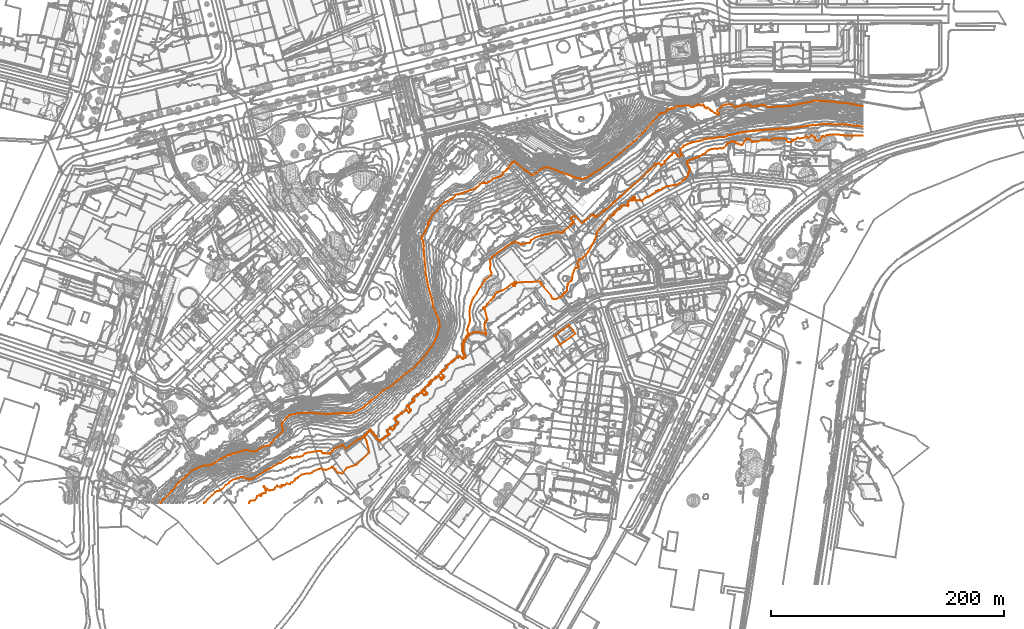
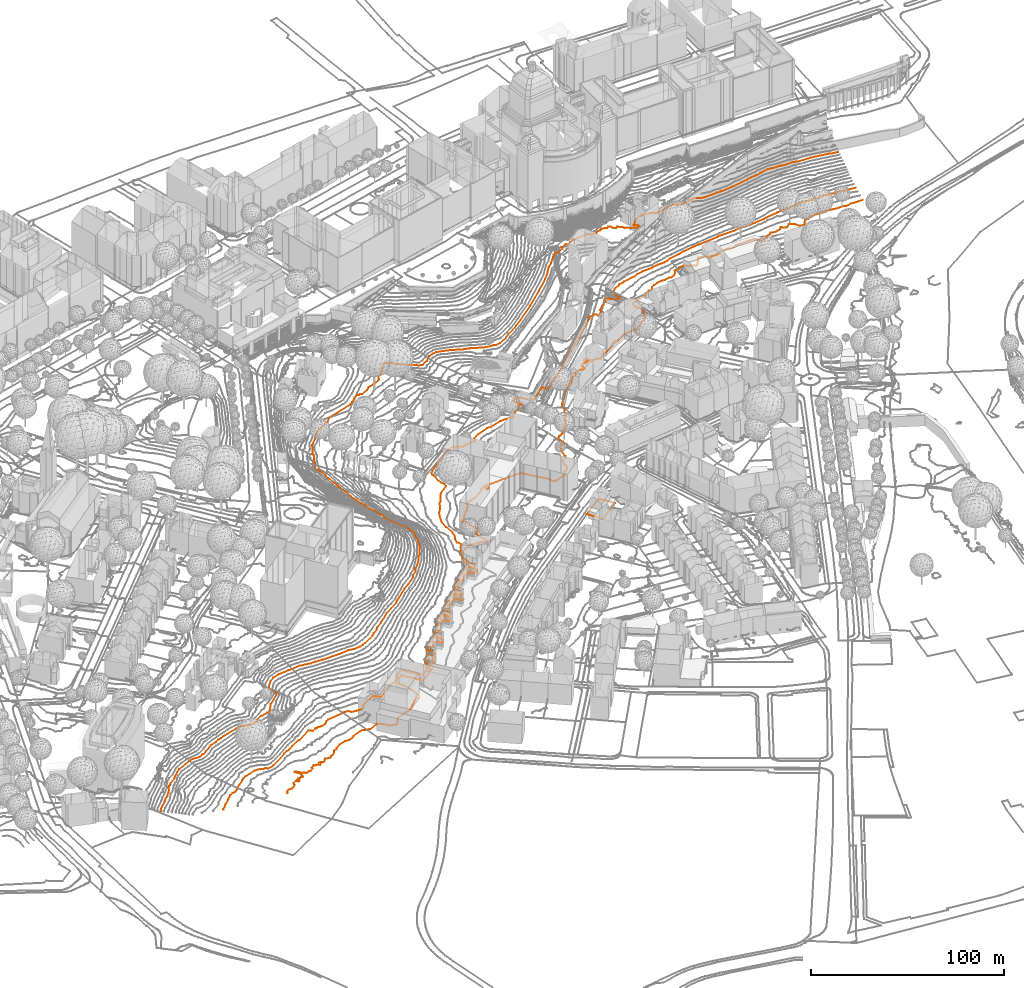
# Not in any storey, part 150 of 477: 4 geographic elements.
"""IFC4 model written with IfcOpenShell, lengths in metres."""

from ifc_helpers import new_model, entity, si_unit, frame, origin_with_axes, place, context, subcontext, project, spatial, element, save


model = new_model("IFC4")

# Units and contexts
model_context = context("Model", 3, precision=1e-05, world=origin_with_axes())
body_context = subcontext(model_context, "Body", "Model", "MODEL_VIEW")
ifc_project = project(units=[si_unit("AREAUNIT", "SQUARE_METRE"), si_unit("LENGTHUNIT", "METRE")], contexts=[model_context])

# Sites
site_1_placement = place(None, origin_with_axes())
site_1 = spatial("IfcSite", under=ifc_project, at=site_1_placement, Name="Topoexport Site")
site_2_placement = place(site_1_placement, origin_with_axes())
site_2 = spatial("IfcSite", under=site_1, at=site_2_placement, Name="TPX_CADASTRES")

# Geographic element
geographic_element_1_placement = place(site_2_placement, frame((423.656732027, 142.4997160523, 502.5184169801), z_axis=(0.0, 0.0, 1.0), x_axis=(1.0, 0.0, 0.0)))
element("IfcGeographicElement", 1, at=geographic_element_1_placement, inside=site_2, Name="Cadastre 197", PredefinedType="NOTDEFINED", context=body_context, shape_type="GeometricCurveSet", body=[
    entity("IfcGeometricCurveSet", [entity("IfcIndexedPolyCurve", entity("IfcCartesianPointList3D", [[0.0, 0.0, 0.0], [12.338, 9.091, 0.0222488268], [17.8079999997, 1.6810000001, -0.3433522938], [4.7799999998, -7.99, 0.0427085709], [0.0, 0.0, 0.0]]))]),
])

# Site
site_3_placement = place(site_1_placement, origin_with_axes())
site_3 = spatial("IfcSite", under=site_1, at=site_3_placement, Name="TPX_CONTOUR_LINES")

# Geographic elements
geographic_element_2_placement = place(site_3_placement, frame((161.465342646, -1.3292839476, 505.0), z_axis=(0.0, 0.0, 1.0), x_axis=(1.0, 0.0, 0.0)))
element("IfcGeographicElement", 2, at=geographic_element_2_placement, inside=site_3, Name="Contour Line 505.0 m", PredefinedType="NOTDEFINED", context=body_context, shape_type="GeometricCurveSet", body=[
    entity("IfcGeometricCurveSet", [entity("IfcIndexedPolyCurve", entity("IfcCartesianPointList3D", [[526.7123893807, 315.2069503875, 0.0], [519.2123893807, 315.2732294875, 0.0], [516.2123893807, 314.8002924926, 0.0], [515.2123893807, 315.3186955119, 0.0], [513.2123893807, 315.1981731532, 0.0], [509.1527119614, 315.5, 0.0], [503.2123893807, 316.3215092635, 0.0], [500.2123893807, 315.9079242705, 0.0], [498.2123893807, 316.0161334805, 0.0], [496.2123893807, 315.4967054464, 0.0], [495.2123893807, 315.6368888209, 0.0], [493.5534447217, 314.5, 0.0], [492.2123893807, 314.6919054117, 0.0], [491.2123893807, 314.2698392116, 0.0], [489.2123893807, 311.1402562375, 0.0], [487.2123893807, 310.9086021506, 0.0], [486.1375825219, 311.5, 0.0], [485.2123893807, 313.3470764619, 0.0], [484.2123893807, 314.3789085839, 0.0], [482.2123893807, 315.5223867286, 0.0], [480.2123893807, 313.5784313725, 0.0], [479.2123893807, 313.6009070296, 0.0], [477.2123893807, 315.0170329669, 0.0], [476.2123893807, 313.7466857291, 0.0], [474.2123893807, 313.0376222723, 0.0], [472.2123893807, 312.7664549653, 0.0], [470.2123893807, 313.3330985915, 0.0], [469.2123893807, 312.3983425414, 0.0], [466.2123893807, 311.5852272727, 0.0], [466.3584070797, 310.5, 0.0], [464.2123893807, 309.4738669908, 0.0], [462.154413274, 309.5, 0.0], [460.9906241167, 311.5, 0.0], [460.2123893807, 312.2418576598, 0.0], [458.2123893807, 312.7620000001, 0.0], [449.0217663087, 312.5, 0.0], [447.2123893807, 311.6006628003, 0.0], [445.2123893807, 311.1224588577, 0.0], [444.2123893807, 311.8990051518, 0.0], [440.2123893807, 311.9309906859, 0.0], [436.2123893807, 310.1443271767, 0.0], [433.2123893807, 310.0880628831, 0.0], [432.2123893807, 309.7835774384, 0.0], [431.2123893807, 309.9989648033, 0.0], [430.2123893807, 311.374105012, 0.0], [429.2123893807, 312.1302050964, 0.0], [426.2123893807, 312.5525580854, 0.0], [423.2123893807, 307.6217135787, 0.0], [422.2123893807, 307.0252818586, 0.0], [419.2123893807, 308.3179022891, 0.0], [417.8236118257, 308.5, 0.0], [417.2123893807, 309.6440947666, 0.0], [416.2123893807, 310.137881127, 0.0], [413.2123893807, 309.8792638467, 0.0], [409.9060830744, 308.5, 0.0], [409.0418861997, 306.5, 0.0], [407.2123893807, 304.7815276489, 0.0], [405.2123893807, 304.1554869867, 0.0], [404.2123893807, 304.6470800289, 0.0], [401.2123893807, 303.8154962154, 0.0], [399.2123893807, 304.0460321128, 0.0], [396.3503037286, 303.5, 0.0], [394.2123893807, 302.666028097, 0.0], [392.4184692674, 301.5, 0.0], [391.2123893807, 299.7420074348, 0.0], [390.2123893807, 299.3481186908, 0.0], [389.2123893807, 299.5282867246, 0.0], [386.2123893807, 297.220676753, 0.0], [383.4192859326, 296.5, 0.0], [381.7379149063, 295.5, 0.0], [377.2123893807, 294.2364155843, 0.0], [376.2123893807, 293.4510747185, 0.0], [375.8052469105, 291.5, 0.0], [376.1965536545, 289.5, 0.0], [377.310175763, 288.5, 0.0], [377.6761243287, 287.5, 0.0], [377.8355025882, 284.5, 0.0], [377.2123893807, 284.1975732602, 0.0], [376.3457008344, 281.5, 0.0], [374.9731823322, 279.5, 0.0], [374.6593243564, 278.5, 0.0], [372.2123893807, 277.0914786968, 0.0], [369.2123893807, 274.3572429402, 0.0], [367.2123893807, 273.1040470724, 0.0], [365.2123893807, 272.5344516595, 0.0], [364.2123893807, 272.6157352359, 0.0], [358.2123893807, 271.8350357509, 0.0], [354.2123893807, 269.7304730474, 0.0], [353.2123893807, 268.7483761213, 0.0], [350.9242821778, 268.5, 0.0], [350.2123893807, 267.6705698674, 0.0], [349.1431841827, 267.5, 0.0], [347.2123893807, 265.7058663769, 0.0], [346.2123893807, 265.2674199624, 0.0], [343.2123893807, 262.8686982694, 0.0], [341.0379707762, 262.5, 0.0], [339.5757880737, 261.5, 0.0], [337.2123893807, 258.9570238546, 0.0], [334.2123893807, 260.0008771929, 0.0], [333.2123893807, 259.629579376, 0.0], [332.2123893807, 259.6752484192, 0.0], [331.4058522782, 260.5, 0.0], [331.1355162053, 262.5, 0.0], [329.2123893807, 262.6550896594, 0.0], [328.1074355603, 261.5, 0.0], [328.2123893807, 260.9212962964, 0.0], [330.4143598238, 261.5, 0.0], [330.579441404, 260.5, 0.0], [330.2123893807, 260.0916398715, 0.0], [329.2123893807, 259.7745398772, 0.0], [326.2123893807, 259.5520139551, 0.0], [324.9243832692, 258.5, 0.0], [325.4393687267, 255.5, 0.0], [325.2123893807, 254.6977186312, 0.0], [323.2123893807, 255.2533227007, 0.0], [321.2123893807, 255.2551474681, 0.0], [319.2123893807, 254.5369047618, 0.0], [318.5069925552, 253.5, 0.0], [318.2123893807, 252.3257655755, 0.0], [316.2123893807, 251.7444073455, 0.0], [314.2123893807, 249.7422988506, 0.0], [313.2123893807, 249.5337504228, 0.0], [313.4070202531, 248.5, 0.0], [312.917886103, 247.5, 0.0], [312.2123893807, 246.9720754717, 0.0], [311.2123893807, 246.8063291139, 0.0], [310.2123893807, 246.0642869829, 0.0], [307.5322657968, 243.5, 0.0], [299.0968937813, 233.5, 0.0], [298.370428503, 231.5, 0.0], [297.8470706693, 228.5, 0.0], [296.1912217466, 225.5, 0.0], [296.0267762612, 224.5, 0.0], [294.0904221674, 221.5, 0.0], [291.2123893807, 215.7127351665, 0.0], [290.2123893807, 214.7580195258, 0.0], [288.8178451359, 212.5, 0.0], [286.8786264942, 211.5, 0.0], [286.2123893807, 210.3762287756, 0.0], [285.2123893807, 209.9692111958, 0.0], [284.2123893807, 209.1053864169, 0.0], [283.2123893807, 208.818955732, 0.0], [282.2123893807, 207.7880886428, 0.0], [281.7245797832, 205.5, 0.0], [282.4621772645, 203.5, 0.0], [282.2123893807, 201.8919744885, 0.0], [281.2123893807, 201.4628140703, 0.0], [280.2123893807, 201.8028865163, 0.0], [279.862936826, 201.5, 0.0], [278.7764534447, 199.5, 0.0], [277.6827863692, 196.5, 0.0], [276.963840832, 191.5, 0.0], [276.2123893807, 190.5732098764, 0.0], [273.3871804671, 188.5, 0.0], [273.4815941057, 187.5, 0.0], [272.7440326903, 185.5, 0.0], [272.9471186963, 184.5, 0.0], [272.7952977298, 182.5, 0.0], [271.2123893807, 180.5507253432, 0.0], [270.2123893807, 180.218394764, 0.0], [269.4856077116, 179.5, 0.0], [268.2123893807, 177.2617420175, 0.0], [263.2123893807, 175.2468276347, 0.0], [261.2123893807, 174.9209147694, 0.0], [260.2123893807, 175.3175769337, 0.0], [259.2123893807, 178.1581769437, 0.0], [252.8794667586, 185.5, 0.0], [251.5496336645, 187.5, 0.0], [250.5046371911, 188.5, 0.0], [250.1659920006, 189.5, 0.0], [249.2123893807, 190.0959406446, 0.0], [230.2123893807, 189.3114297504, 0.0], [229.2123893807, 188.9456733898, 0.0], [228.5151717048, 189.5, 0.0], [227.8438634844, 189.5, 0.0], [226.2536857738, 188.5, 0.0], [227.2123893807, 187.6312174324, 0.0], [228.2123893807, 187.9896872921, 0.0], [228.4026685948, 187.5, 0.0], [228.2123893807, 186.3356661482, 0.0], [227.2123893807, 186.1130669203, 0.0], [226.4191514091, 186.5, 0.0], [227.0533767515, 187.5, 0.0], [226.2123893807, 188.4488341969, 0.0], [224.2123893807, 187.3758584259, 0.0], [223.2123893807, 186.1167444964, 0.0], [221.2123893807, 184.7776504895, 0.0], [217.2123893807, 182.4578286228, 0.0], [215.2123893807, 181.7754325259, 0.0], [214.2123893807, 181.0120652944, 0.0], [213.2123893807, 181.0871298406, 0.0], [212.2207253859, 180.5, 0.0], [211.2572404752, 179.5, 0.0], [210.2123893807, 176.9859887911, 0.0], [209.5194670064, 176.5, 0.0], [208.2123893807, 174.5635144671, 0.0], [207.2123893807, 174.0163343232, 0.0], [204.2123893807, 170.7630614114, 0.0], [203.8769701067, 169.5, 0.0], [202.2123893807, 168.1112759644, 0.0], [201.2123893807, 167.9568113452, 0.0], [200.7783346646, 167.5, 0.0], [201.2123893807, 166.8462484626, 0.0], [202.2123893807, 166.396034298, 0.0], [204.4654103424, 157.5, 0.0], [203.8763158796, 156.5, 0.0], [202.3787236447, 155.5, 0.0], [202.3485012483, 154.5, 0.0], [201.8696519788, 153.5, 0.0], [201.8890360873, 151.5, 0.0], [203.3622534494, 146.5, 0.0], [203.2566602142, 144.5, 0.0], [200.2123893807, 146.1511038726, 0.0], [195.2123893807, 146.8118663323, 0.0], [192.2123893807, 146.310496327, 0.0], [188.2123893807, 143.8219855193, 0.0], [187.4174227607, 142.5, 0.0], [185.5994279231, 140.5, 0.0], [185.1265332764, 139.5, 0.0], [184.3611698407, 137.5, 0.0], [183.8302678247, 134.5, 0.0], [184.045483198, 130.5, 0.0], [185.9002944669, 125.5, 0.0], [185.2123893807, 124.8113529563, 0.0], [184.2123893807, 124.8134669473, 0.0], [183.2123893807, 123.8126350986, 0.0], [181.2123893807, 125.8134698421, 0.0], [180.2123893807, 125.8132479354, 0.0], [179.2123893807, 124.8134262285, 0.0], [178.2123893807, 124.8122099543, 0.0], [175.2123893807, 121.8124491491, 0.0], [174.2123893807, 121.0484771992, 0.0], [173.2123893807, 120.8108804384, 0.0], [169.790661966, 117.5, 0.0], [169.9006238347, 116.5, 0.0], [167.2123893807, 113.8313602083, 0.0], [166.2123893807, 113.7738811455, 0.0], [164.900209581, 112.5, 0.0], [164.9002567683, 111.5, 0.0], [166.8756420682, 109.5, 0.0], [167.0851466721, 108.5, 0.0], [166.9004020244, 107.5, 0.0], [166.2123893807, 106.8110877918, 0.0], [165.2123893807, 105.8788738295, 0.0], [164.5946905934, 106.5, 0.0], [164.4825918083, 107.5, 0.0], [163.2123893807, 108.8134698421, 0.0], [162.2123893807, 108.8125394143, 0.0], [161.2123893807, 107.8134050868, 0.0], [159.2123893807, 106.8114186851, 0.0], [157.2123893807, 104.8129947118, 0.0], [154.9013680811, 103.5, 0.0], [155.899789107, 102.5, 0.0], [154.2123893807, 100.9853716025, 0.0], [153.2123893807, 100.8115074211, 0.0], [150.1019467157, 97.5, 0.0], [152.8993975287, 94.5, 0.0], [152.0412782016, 93.5, 0.0], [151.2123893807, 92.8128265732, 0.0], [150.2123893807, 92.8134698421, 0.0], [148.5258592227, 94.5, 0.0], [148.2123893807, 95.4263551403, 0.0], [147.2123893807, 94.8114891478, 0.0], [145.2123893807, 92.8131740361, 0.0], [143.2123893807, 91.8121168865, 0.0], [140.8994407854, 89.5, 0.0], [141.8989195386, 88.5, 0.0], [141.5106119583, 87.5, 0.0], [140.2123893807, 86.8124763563, 0.0], [137.2123893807, 83.870893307, 0.0], [136.1046721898, 83.5, 0.0], [138.7964873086, 80.5, 0.0], [138.8996730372, 79.5, 0.0], [137.2123893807, 77.8104488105, 0.0], [135.2123893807, 79.8134698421, 0.0], [134.2123893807, 79.8114395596, 0.0], [131.2123893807, 76.8870081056, 0.0], [130.2123893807, 76.8100109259, 0.0], [127.2123893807, 73.8615881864, 0.0], [126.2123893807, 73.8099954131, 0.0], [125.9013732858, 73.5, 0.0], [125.9544975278, 71.5, 0.0], [127.8989195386, 69.5, 0.0], [127.8993134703, 68.5, 0.0], [125.2123893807, 66.0239048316, 0.0], [124.8989195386, 65.5, 0.0], [124.8998413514, 64.5, 0.0], [123.2123893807, 62.8110615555, 0.0], [121.2123893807, 64.5516686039, 0.0], [118.8989578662, 62.5, 0.0], [118.903285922, 61.5, 0.0], [120.8194236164, 59.5, 0.0], [120.2123893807, 58.8920461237, 0.0], [119.2123893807, 58.6607775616, 0.0], [116.2123893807, 55.9600415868, 0.0], [114.2123893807, 54.7850354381, 0.0], [112.2123893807, 53.0588619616, 0.0], [109.5486930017, 55.5, 0.0], [108.4843465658, 57.5, 0.0], [105.5533676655, 60.5, 0.0], [105.2132915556, 61.5, 0.0], [104.2123893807, 62.7713916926, 0.0], [101.7975701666, 60.5, 0.0], [100.2031376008, 58.5, 0.0], [99.9035502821, 57.5, 0.0], [99.197941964, 56.5, 0.0], [100.6372626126, 54.5, 0.0], [100.951576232, 53.5, 0.0], [102.6464386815, 46.5, 0.0], [103.00090113, 44.5, 0.0], [102.7435037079, 43.5, 0.0], [92.9767424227, 33.5, 0.0], [84.2123893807, 30.5045158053, 0.0], [83.2123893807, 29.5841610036, 0.0], [80.2123893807, 25.36137412, 0.0], [76.2123893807, 26.4776644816, 0.0], [74.2123893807, 28.9956964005, 0.0], [72.2123893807, 30.5515384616, 0.0], [71.2123893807, 30.9071875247, 0.0], [66.2123893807, 28.6352002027, 0.0], [63.2123893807, 29.121464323, 0.0], [62.2123893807, 29.840236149, 0.0], [60.2123893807, 29.5211193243, 0.0], [55.5029143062, 27.5, 0.0], [54.2123893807, 26.4791484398, 0.0], [52.2123893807, 25.5056657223, 0.0], [49.2123893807, 25.6354309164, 0.0], [45.2123893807, 24.4431524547, 0.0], [42.3485131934, 22.5, 0.0], [41.7213499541, 21.5, 0.0], [40.2123893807, 21.1535704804, 0.0], [39.6023794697, 20.5, 0.0], [39.2123893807, 19.4344678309, 0.0], [37.2123893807, 17.8106493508, 0.0], [36.2123893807, 17.6135009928, 0.0], [35.2123893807, 16.4391699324, 0.0], [32.2123893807, 17.0376458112, 0.0], [31.2123893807, 15.7464214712, 0.0], [30.2123893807, 15.019339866, 0.0], [29.2123893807, 15.5137367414, 0.0], [28.2123893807, 15.5890449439, 0.0], [27.9782682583, 15.5, 0.0], [28.4845743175, 14.5, 0.0], [27.2123893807, 13.4437945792, 0.0], [26.2123893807, 14.4543826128, 0.0], [24.5571273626, 14.5, 0.0], [24.2123893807, 15.0747292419, 0.0], [22.3297109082, 13.5, 0.0], [22.2123893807, 12.3485010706, 0.0], [20.2123893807, 11.3565279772, 0.0], [19.2123893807, 11.4255079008, 0.0], [18.2123893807, 10.95, 0.0], [17.2123893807, 11.0484346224, 0.0], [16.9332454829, 11.5, 0.0], [15.1626200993, 12.5, 0.0], [13.2123893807, 14.9069058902, 0.0], [12.4980470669, 14.5, 0.0], [13.9022893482, 12.5, 0.0], [14.5702667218, 10.5, 0.0], [14.2123893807, 8.7028665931, 0.0], [13.2123893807, 8.8016246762, 0.0], [12.2123893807, 8.2330650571, 0.0], [11.2123893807, 8.3295857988, 0.0], [10.2123893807, 7.6944012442, 0.0], [9.9783069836, 7.5, 0.0], [10.8380121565, 6.5, 0.0], [10.2123893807, 6.0985384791, 0.0], [9.2123893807, 7.306710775, 0.0], [7.2123893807, 6.0341726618, 0.0], [6.6869601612, 4.5, 0.0], [5.2123893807, 2.913782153, 0.0], [4.2123893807, 2.3664368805, 0.0], [2.2123893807, 2.4394847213, 0.0], [1.2123893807, 1.8110580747, 0.0], [0.0, 0.5, 0.0], [0.0, 0.0, 0.0]]))]),
])
geographic_element_3_placement = place(site_3_placement, frame((123.0830321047, -1.3292839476, 508.0), z_axis=(0.0, 0.0, 1.0), x_axis=(1.0, 0.0, 0.0)))
element("IfcGeographicElement", 3, at=geographic_element_3_placement, inside=site_3, Name="Contour Line 508.0 m", PredefinedType="NOTDEFINED", context=body_context, shape_type="GeometricCurveSet", body=[
    entity("IfcGeometricCurveSet", [entity("IfcIndexedPolyCurve", entity("IfcCartesianPointList3D", [[565.094699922, 322.8219168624, 0.0], [559.594699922, 323.6181948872, 0.0], [558.594699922, 323.262633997, 0.0], [556.594699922, 323.9604906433, 0.0], [553.594699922, 324.1119500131, 0.0], [547.594699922, 324.9692113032, 0.0], [540.594699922, 324.6238906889, 0.0], [536.594699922, 325.1486821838, 0.0], [530.594699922, 325.1248238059, 0.0], [525.594699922, 324.3030877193, 0.0], [524.594699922, 324.4619597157, 0.0], [518.594699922, 323.7918099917, 0.0], [511.594699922, 322.7260215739, 0.0], [509.594699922, 322.1755993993, 0.0], [503.594699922, 321.6185926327, 0.0], [500.594699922, 321.0563391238, 0.0], [497.594699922, 321.1122012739, 0.0], [495.594699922, 321.5078168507, 0.0], [490.594699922, 320.6558496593, 0.0], [481.594699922, 320.4851252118, 0.0], [480.594699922, 320.1072655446, 0.0], [465.594699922, 318.7051398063, 0.0], [458.594699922, 317.6649257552, 0.0], [455.594699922, 316.6914447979, 0.0], [449.31749172, 315.5, 0.0], [447.594699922, 314.5111120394, 0.0], [445.594699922, 314.0297193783, 0.0], [441.594699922, 313.902158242, 0.0], [438.594699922, 313.390372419, 0.0], [437.594699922, 312.9571922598, 0.0], [431.594699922, 312.594369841, 0.0], [427.594699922, 311.7396567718, 0.0], [425.594699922, 310.76706973, 0.0], [418.594699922, 309.525554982, 0.0], [417.594699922, 308.9518788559, 0.0], [415.4307428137, 308.5, 0.0], [414.594699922, 307.8440086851, 0.0], [411.2586822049, 306.5, 0.0], [410.594699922, 305.5969331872, 0.0], [408.594699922, 303.9797804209, 0.0], [408.4163447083, 303.5, 0.0], [408.6100907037, 300.5, 0.0], [409.7174833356, 298.5, 0.0], [409.594699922, 298.0633910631, 0.0], [408.594699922, 298.0177514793, 0.0], [407.594699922, 297.3321268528, 0.0], [406.594699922, 297.2539881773, 0.0], [405.594699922, 298.5953292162, 0.0], [402.594699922, 300.8958926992, 0.0], [401.7445205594, 300.5, 0.0], [401.1467637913, 298.5, 0.0], [399.594699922, 297.7086740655, 0.0], [398.594699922, 296.3811401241, 0.0], [397.594699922, 296.0174873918, 0.0], [394.9483179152, 293.5, 0.0], [395.0608064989, 292.5, 0.0], [394.594699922, 291.7633535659, 0.0], [391.594699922, 289.4243190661, 0.0], [391.3668814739, 289.5, 0.0], [391.2423981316, 290.5, 0.0], [389.594699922, 291.5964270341, 0.0], [388.594699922, 290.8487709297, 0.0], [386.594699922, 290.6573941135, 0.0], [386.3558308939, 289.5, 0.0], [382.594699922, 286.4723688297, 0.0], [382.0579849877, 285.5, 0.0], [380.594699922, 284.5473120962, 0.0], [372.594699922, 276.8610392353, 0.0], [368.594699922, 273.6570935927, 0.0], [362.594699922, 267.9641017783, 0.0], [356.594699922, 263.0251222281, 0.0], [352.594699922, 259.050693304, 0.0], [351.594699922, 258.5318017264, 0.0], [350.594699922, 257.2950969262, 0.0], [344.594699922, 252.0730780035, 0.0], [343.594699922, 251.6958996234, 0.0], [342.594699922, 250.3435173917, 0.0], [341.594699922, 250.000910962, 0.0], [337.594699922, 246.4422712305, 0.0], [336.594699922, 246.1651287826, 0.0], [335.594699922, 245.2896713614, 0.0], [334.8816734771, 245.5, 0.0], [334.3255568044, 247.5, 0.0], [333.594699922, 247.6032185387, 0.0], [332.594699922, 246.6500236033, 0.0], [331.5507113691, 246.5, 0.0], [327.594699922, 242.8799585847, 0.0], [326.594699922, 242.553410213, 0.0], [325.594699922, 241.0152121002, 0.0], [323.594699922, 240.7939322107, 0.0], [318.594699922, 245.6619560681, 0.0], [317.594699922, 246.3652160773, 0.0], [316.594699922, 246.2668241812, 0.0], [314.7534300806, 244.5, 0.0], [315.6544791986, 242.5, 0.0], [315.7544992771, 241.5, 0.0], [317.2274112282, 240.5, 0.0], [316.594699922, 239.8427594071, 0.0], [314.616313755, 239.5, 0.0], [314.5383319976, 238.5, 0.0], [309.594699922, 234.5589029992, 0.0], [308.5264242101, 233.5, 0.0], [307.594699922, 231.9986728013, 0.0], [306.594699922, 231.8166123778, 0.0], [305.594699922, 232.15503419, 0.0], [302.594699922, 232.4175996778, 0.0], [299.594699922, 232.1976171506, 0.0], [293.594699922, 230.3957960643, 0.0], [290.594699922, 230.1091698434, 0.0], [283.594699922, 227.6838070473, 0.0], [280.323039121, 225.5, 0.0], [279.6816769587, 224.5, 0.0], [279.594699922, 223.3338268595, 0.0], [276.594699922, 223.077982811, 0.0], [274.594699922, 222.4603752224, 0.0], [273.594699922, 222.7358147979, 0.0], [272.594699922, 221.8381144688, 0.0], [271.594699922, 221.8771367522, 0.0], [269.594699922, 223.2175688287, 0.0], [267.594699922, 223.4793713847, 0.0], [266.594699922, 224.2024776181, 0.0], [263.594699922, 223.2360667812, 0.0], [258.594699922, 219.878611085, 0.0], [257.1937500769, 218.5, 0.0], [252.594699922, 215.5729587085, 0.0], [251.5804451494, 214.5, 0.0], [247.4600866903, 211.5, 0.0], [245.5631332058, 209.5, 0.0], [244.9685162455, 207.5, 0.0], [245.5446710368, 205.5, 0.0], [245.1823107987, 201.5, 0.0], [245.4837317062, 199.5, 0.0], [246.3203760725, 197.5, 0.0], [246.0751264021, 195.5, 0.0], [240.594699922, 191.2501246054, 0.0], [236.594699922, 184.8210762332, 0.0], [235.594699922, 183.8174044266, 0.0], [233.3961826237, 179.5, 0.0], [231.112772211, 176.5, 0.0], [230.0598209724, 174.5, 0.0], [228.0073590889, 168.5, 0.0], [227.623936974, 163.5, 0.0], [227.9990052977, 157.5, 0.0], [227.6703621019, 154.5, 0.0], [226.3074769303, 151.5, 0.0], [225.6145208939, 148.5, 0.0], [226.9173553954, 145.5, 0.0], [225.7152012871, 144.5, 0.0], [224.9230426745, 143.5, 0.0], [224.7294572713, 142.5, 0.0], [222.8972633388, 140.5, 0.0], [222.0185862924, 138.5, 0.0], [221.2326557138, 134.5, 0.0], [221.6600096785, 130.5, 0.0], [222.3400831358, 128.5, 0.0], [223.8672558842, 125.5, 0.0], [223.594699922, 125.2271500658, 0.0], [222.594699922, 125.2279876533, 0.0], [221.594699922, 124.2276580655, 0.0], [219.594699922, 126.2279888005, 0.0], [218.594699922, 126.2274734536, 0.0], [217.594699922, 125.227887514, 0.0], [216.594699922, 125.2250628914, 0.0], [213.594699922, 122.2268615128, 0.0], [211.594699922, 121.222673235, 0.0], [207.6152984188, 117.5, 0.0], [207.8700693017, 116.5, 0.0], [205.594699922, 114.2695366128, 0.0], [204.594699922, 114.2065210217, 0.0], [202.869707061, 112.5, 0.0], [202.8698166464, 111.5, 0.0], [204.8126525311, 109.5, 0.0], [204.8672984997, 107.5, 0.0], [204.594699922, 107.2270450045, 0.0], [203.594699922, 106.3872174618, 0.0], [203.3055456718, 107.5, 0.0], [201.594699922, 109.2279888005, 0.0], [200.594699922, 109.225828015, 0.0], [199.594699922, 108.2278384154, 0.0], [198.594699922, 108.0526057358, 0.0], [195.594699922, 105.2268853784, 0.0], [194.594699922, 104.9743466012, 0.0], [193.594699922, 104.2211980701, 0.0], [192.8723975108, 103.5, 0.0], [193.8670556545, 102.5, 0.0], [191.594699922, 101.2234313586, 0.0], [187.9480848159, 97.5, 0.0], [190.8669005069, 94.5, 0.0], [189.9231152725, 93.5, 0.0], [189.594699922, 93.2277339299, 0.0], [188.594699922, 93.2279888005, 0.0], [187.3226887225, 94.5, 0.0], [187.1835643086, 95.5, 0.0], [186.594699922, 96.0832439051, 0.0], [183.594699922, 93.2273018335, 0.0], [182.594699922, 93.0521943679, 0.0], [181.594699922, 92.2248467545, 0.0], [178.8679216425, 89.5, 0.0], [179.8667111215, 88.5, 0.0], [179.594699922, 88.0093329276, 0.0], [175.594699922, 84.3613465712, 0.0], [174.594699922, 84.1430259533, 0.0], [173.9516424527, 83.5, 0.0], [176.6288269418, 80.5, 0.0], [176.8670096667, 79.5, 0.0], [175.594699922, 78.2267918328, 0.0], [173.594699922, 80.2279888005, 0.0], [172.594699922, 80.2232737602, 0.0], [169.594699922, 77.3987708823, 0.0], [168.594699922, 77.2199559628, 0.0], [165.594699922, 74.3397367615, 0.0], [164.594699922, 74.2199199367, 0.0], [163.8724095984, 73.5, 0.0], [163.6992202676, 72.5, 0.0], [163.8916491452, 71.5, 0.0], [165.8667111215, 69.5, 0.0], [165.8668672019, 68.5, 0.0], [164.594699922, 67.2276022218, 0.0], [163.2748580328, 66.5, 0.0], [162.8667111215, 65.5, 0.0], [162.8670763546, 64.5, 0.0], [161.594699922, 63.2270346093, 0.0], [159.594699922, 65.1201331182, 0.0], [156.8668001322, 62.5, 0.0], [156.8768514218, 61.5, 0.0], [158.594699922, 59.418293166, 0.0], [157.594699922, 59.1513899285, 0.0], [155.594699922, 57.1924014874, 0.0], [150.594699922, 53.7945370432, 0.0], [149.2307237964, 54.5, 0.0], [147.2312496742, 57.5, 0.0], [145.2291996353, 59.5, 0.0], [144.4191840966, 60.5, 0.0], [144.0938458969, 61.5, 0.0], [142.594699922, 63.1344438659, 0.0], [139.594699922, 60.7444134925, 0.0], [137.594699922, 58.1599952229, 0.0], [135.594699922, 56.2425953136, 0.0], [133.594699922, 55.0245601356, 0.0], [131.5246797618, 54.5, 0.0], [121.594699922, 46.9736096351, 0.0], [119.594699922, 49.1279336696, 0.0], [118.594699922, 49.7650474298, 0.0], [117.594699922, 49.6806114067, 0.0], [113.0688564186, 47.5, 0.0], [111.6433141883, 46.5, 0.0], [109.594699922, 44.901021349, 0.0], [108.594699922, 43.161810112, 0.0], [107.594699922, 42.5611926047, 0.0], [104.594699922, 42.6208076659, 0.0], [103.594699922, 42.9496443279, 0.0], [102.594699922, 42.7918, 0.0], [101.594699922, 43.1298062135, 0.0], [100.594699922, 44.608654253, 0.0], [98.594699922, 44.9457814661, 0.0], [87.594699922, 43.157975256, 0.0], [86.2089033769, 42.5, 0.0], [84.3857813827, 40.5, 0.0], [81.594699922, 39.7549097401, 0.0], [79.594699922, 39.9119218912, 0.0], [78.594699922, 39.32351577, 0.0], [77.594699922, 39.4413929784, 0.0], [75.594699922, 38.3639308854, 0.0], [74.594699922, 39.3182559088, 0.0], [73.594699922, 39.6492452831, 0.0], [65.594699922, 34.573492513, 0.0], [64.594699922, 34.6542868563, 0.0], [59.594699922, 31.9059534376, 0.0], [56.594699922, 29.7730144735, 0.0], [54.594699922, 29.1343400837, 0.0], [52.594699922, 28.0408279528, 0.0], [42.594699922, 21.5227017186, 0.0], [38.594699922, 20.4288629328, 0.0], [37.594699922, 21.3495148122, 0.0], [35.594699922, 21.4064926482, 0.0], [34.594699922, 22.0642919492, 0.0], [33.594699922, 22.3078370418, 0.0], [31.594699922, 22.3438804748, 0.0], [24.594699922, 20.1505787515, 0.0], [22.594699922, 18.9223649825, 0.0], [21.594699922, 17.8416190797, 0.0], [18.5389007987, 15.5, 0.0], [14.594699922, 11.5966675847, 0.0], [13.594699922, 10.94569976, 0.0], [12.594699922, 10.5409465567, 0.0], [11.594699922, 10.5210466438, 0.0], [9.4913033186, 9.5, 0.0], [6.594699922, 6.4364754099, 0.0], [3.1859939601, 3.5, 0.0], [1.594699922, 1.4753174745, 0.0], [0.0, 0.5, 0.0], [0.0, 0.0, 0.0]]))]),
])
geographic_element_4_placement = place(site_3_placement, frame((85.6269270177, -1.3292839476, 520.0), z_axis=(0.0, 0.0, 1.0), x_axis=(1.0, 0.0, 0.0)))
element("IfcGeographicElement", 4, at=geographic_element_4_placement, inside=site_3, Name="Contour Line 520.0 m", PredefinedType="NOTDEFINED", context=body_context, shape_type="GeometricCurveSet", body=[
    entity("IfcGeometricCurveSet", [entity("IfcIndexedPolyCurve", entity("IfcCartesianPointList3D", [[602.550805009, 340.5583623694, 0.0], [598.050805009, 341.0706321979, 0.0], [597.050805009, 341.5818601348, 0.0], [587.050805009, 343.2206096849, 0.0], [580.050805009, 343.4779221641, 0.0], [577.050805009, 344.256076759, 0.0], [572.050805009, 344.2844554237, 0.0], [570.050805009, 344.6878986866, 0.0], [565.050805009, 344.8769393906, 0.0], [563.050805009, 345.4062170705, 0.0], [558.050805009, 344.3898349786, 0.0], [555.050805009, 343.4287759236, 0.0], [552.050805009, 343.3075423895, 0.0], [539.050805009, 340.7494233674, 0.0], [532.050805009, 339.9783752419, 0.0], [529.050805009, 340.1113832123, 0.0], [522.050805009, 339.6462587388, 0.0], [520.050805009, 339.9220403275, 0.0], [517.3977926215, 341.5, 0.0], [516.050805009, 341.6708171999, 0.0], [514.050805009, 340.956942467, 0.0], [513.050805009, 341.0666220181, 0.0], [512.050805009, 340.4094115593, 0.0], [511.050805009, 340.7700053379, 0.0], [510.050805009, 340.186578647, 0.0], [507.050805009, 340.2618072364, 0.0], [505.495498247, 340.5, 0.0], [505.4586880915, 341.5, 0.0], [505.050805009, 341.9413033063, 0.0], [504.050805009, 342.1060707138, 0.0], [501.050805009, 341.5808141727, 0.0], [500.050805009, 341.0777296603, 0.0], [499.050805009, 341.1782493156, 0.0], [497.050805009, 340.7929951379, 0.0], [495.050805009, 340.0206918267, 0.0], [494.050805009, 340.2764237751, 0.0], [493.050805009, 339.687820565, 0.0], [489.050805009, 341.7730369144, 0.0], [487.050805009, 342.2160125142, 0.0], [485.050805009, 341.9027917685, 0.0], [482.050805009, 340.9191759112, 0.0], [481.050805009, 340.2687833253, 0.0], [477.339751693, 336.5, 0.0], [479.050805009, 334.6538526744, 0.0], [479.050805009, 333.9814285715, 0.0], [478.319785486, 333.5, 0.0], [477.050805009, 333.2964015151, 0.0], [476.050805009, 334.5146341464, 0.0], [475.050805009, 334.4634655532, 0.0], [473.050805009, 336.0606276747, 0.0], [471.8982539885, 336.5, 0.0], [471.4064006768, 337.5, 0.0], [469.050805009, 339.3190476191, 0.0], [468.050805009, 338.5876494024, 0.0], [467.050805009, 339.1370510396, 0.0], [466.6491313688, 339.5, 0.0], [466.050805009, 341.0563063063, 0.0], [465.050805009, 341.7137850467, 0.0], [464.050805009, 341.0307414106, 0.0], [462.050805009, 341.556171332, 0.0], [461.050805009, 342.1325567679, 0.0], [460.8471206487, 341.5, 0.0], [460.050805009, 340.7988294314, 0.0], [458.050805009, 340.7592772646, 0.0], [457.050805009, 339.7183653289, 0.0], [455.050805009, 339.7459184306, 0.0], [453.050805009, 341.0379391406, 0.0], [443.8360372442, 340.5, 0.0], [441.050805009, 339.5744599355, 0.0], [440.050805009, 338.2246584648, 0.0], [439.050805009, 338.2141251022, 0.0], [438.050805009, 338.9297568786, 0.0], [437.050805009, 338.174865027, 0.0], [434.9912848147, 337.5, 0.0], [434.7906462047, 336.5, 0.0], [431.050805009, 334.3969993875, 0.0], [429.050805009, 334.5533758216, 0.0], [428.050805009, 333.909859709, 0.0], [422.5752879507, 327.5, 0.0], [420.050805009, 325.2651432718, 0.0], [415.5083287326, 319.5, 0.0], [413.050805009, 316.9337548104, 0.0], [405.1114380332, 309.5, 0.0], [394.050805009, 299.7551207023, 0.0], [379.050805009, 287.918351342, 0.0], [372.050805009, 283.5726525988, 0.0], [369.050805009, 281.3536020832, 0.0], [364.050805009, 278.7207099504, 0.0], [361.050805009, 277.92539296, 0.0], [360.050805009, 278.5241623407, 0.0], [356.050805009, 278.9482096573, 0.0], [354.050805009, 279.5767626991, 0.0], [348.050805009, 282.3273141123, 0.0], [345.050805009, 282.9620599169, 0.0], [339.050805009, 285.6781749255, 0.0], [333.050805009, 287.6103014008, 0.0], [331.050805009, 287.9189701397, 0.0], [329.050805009, 287.6551762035, 0.0], [326.050805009, 286.6469846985, 0.0], [322.9788872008, 283.5, 0.0], [321.050805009, 282.8150916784, 0.0], [319.050805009, 281.3592326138, 0.0], [317.050805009, 282.3397954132, 0.0], [314.5151224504, 284.5, 0.0], [312.050805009, 285.7261415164, 0.0], [304.050805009, 292.5825700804, 0.0], [303.050805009, 292.7856358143, 0.0], [302.086055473, 292.5, 0.0], [301.612628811, 291.5, 0.0], [299.4410745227, 289.5, 0.0], [298.4326675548, 287.5, 0.0], [297.2420848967, 286.5, 0.0], [296.6223708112, 285.5, 0.0], [293.9350256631, 283.5, 0.0], [293.121525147, 281.5, 0.0], [292.050805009, 280.7206379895, 0.0], [290.050805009, 279.8157669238, 0.0], [289.050805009, 279.6815154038, 0.0], [288.050805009, 279.0077404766, 0.0], [285.050805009, 278.3051908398, 0.0], [283.050805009, 276.3395618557, 0.0], [279.1235322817, 274.5, 0.0], [278.050805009, 274.8655970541, 0.0], [277.050805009, 274.4502217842, 0.0], [276.050805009, 274.9279538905, 0.0], [274.050805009, 273.5535959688, 0.0], [270.7807451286, 270.5, 0.0], [269.050805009, 269.4041177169, 0.0], [253.4641321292, 264.5, 0.0], [250.742929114, 261.5, 0.0], [249.050805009, 260.9200315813, 0.0], [246.050805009, 258.9680539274, 0.0], [244.050805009, 258.2205841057, 0.0], [240.050805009, 254.9929340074, 0.0], [237.5017811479, 251.5, 0.0], [233.4860246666, 247.5, 0.0], [230.9287984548, 242.5, 0.0], [230.050805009, 241.1351118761, 0.0], [229.2863776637, 240.5, 0.0], [229.7056648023, 239.5, 0.0], [229.3399001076, 238.5, 0.0], [226.7941741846, 233.5, 0.0], [226.6409829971, 232.5, 0.0], [224.7233416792, 229.5, 0.0], [224.0220741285, 227.5, 0.0], [225.050805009, 225.1646115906, 0.0], [225.8569998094, 220.5, 0.0], [225.5562778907, 217.5, 0.0], [225.9125306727, 216.5, 0.0], [226.0140669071, 212.5, 0.0], [226.6165644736, 209.5, 0.0], [226.4384167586, 208.5, 0.0], [227.5024505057, 200.5, 0.0], [227.4899111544, 197.5, 0.0], [228.8715271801, 189.5, 0.0], [231.0853552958, 180.5, 0.0], [232.773527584, 175.5, 0.0], [233.9468068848, 168.5, 0.0], [238.3695786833, 158.5, 0.0], [239.5555539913, 152.5, 0.0], [236.9732501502, 142.5, 0.0], [232.6354489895, 134.5, 0.0], [230.8710339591, 132.5, 0.0], [228.050805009, 128.1370360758, 0.0], [224.050805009, 123.7302536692, 0.0], [222.6212809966, 121.5, 0.0], [220.050805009, 119.5917405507, 0.0], [219.050805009, 117.9592372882, 0.0], [213.5835993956, 113.5, 0.0], [210.050805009, 111.2390786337, 0.0], [203.6441932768, 105.5, 0.0], [202.050805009, 104.456047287, 0.0], [200.050805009, 102.3313935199, 0.0], [191.050805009, 96.6330311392, 0.0], [183.9952972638, 90.5, 0.0], [180.050805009, 87.5724191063, 0.0], [179.050805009, 86.2324406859, 0.0], [176.050805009, 84.1732329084, 0.0], [174.5180181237, 82.5, 0.0], [166.050805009, 77.9673425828, 0.0], [164.050805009, 77.3336795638, 0.0], [160.050805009, 76.9483651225, 0.0], [157.050805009, 77.4019607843, 0.0], [151.050805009, 76.8123861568, 0.0], [141.050805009, 76.6049874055, 0.0], [137.050805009, 77.0681794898, 0.0], [134.050805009, 76.9562053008, 0.0], [128.050805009, 77.8533834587, 0.0], [123.050805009, 77.2862049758, 0.0], [121.050805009, 77.3726892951, 0.0], [115.050805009, 76.5855030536, 0.0], [110.9176563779, 75.5, 0.0], [108.050805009, 73.4862537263, 0.0], [104.7858302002, 69.5, 0.0], [104.2839266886, 68.5, 0.0], [104.0606854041, 67.5, 0.0], [105.1609766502, 63.5, 0.0], [105.1282404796, 62.5, 0.0], [104.6430271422, 61.5, 0.0], [101.050805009, 58.0474969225, 0.0], [97.8270927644, 55.5, 0.0], [95.0632350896, 51.5, 0.0], [93.050805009, 49.4699241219, 0.0], [92.050805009, 49.5477738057, 0.0], [89.050805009, 48.6393442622, 0.0], [88.050805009, 48.7079392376, 0.0], [82.050805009, 44.9876377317, 0.0], [80.050805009, 44.2713062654, 0.0], [79.050805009, 44.3284539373, 0.0], [74.050805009, 45.7475599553, 0.0], [71.050805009, 45.2078750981, 0.0], [62.050805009, 42.5349598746, 0.0], [60.050805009, 41.6040000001, 0.0], [58.050805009, 41.2328696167, 0.0], [56.050805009, 40.0337482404, 0.0], [51.8544819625, 38.5, 0.0], [47.050805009, 34.9595712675, 0.0], [45.050805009, 33.7240644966, 0.0], [44.050805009, 33.5546097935, 0.0], [42.2370278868, 32.5, 0.0], [36.9339708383, 32.5, 0.0], [27.050805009, 28.1703099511, 0.0], [21.9365342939, 23.5, 0.0], [21.050805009, 22.195478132, 0.0], [17.1927207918, 19.5, 0.0], [16.050805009, 18.0745116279, 0.0], [15.050805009, 17.4551035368, 0.0], [14.050805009, 16.2638825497, 0.0], [13.20275801, 14.5, 0.0], [9.9890116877, 10.5, 0.0], [7.6861656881, 8.5, 0.0], [6.050805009, 6.4340749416, 0.0], [2.6457966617, 3.5, 0.0], [0.0, 0.5, 0.0], [0.0, 0.0, 0.0]]))]),
])

save(model, "model.ifc")
